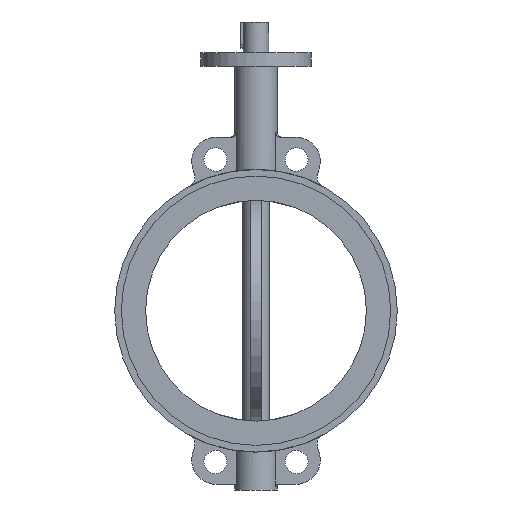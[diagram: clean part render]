
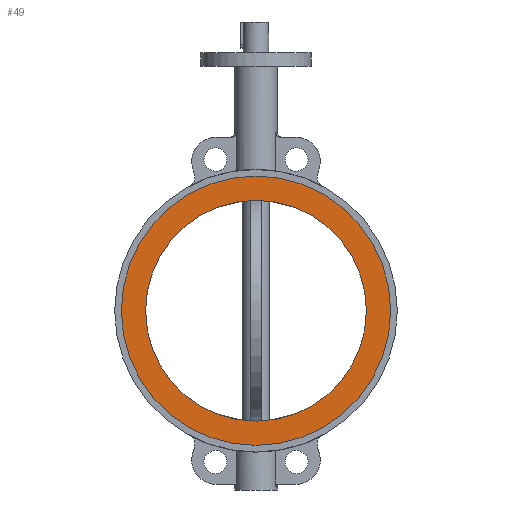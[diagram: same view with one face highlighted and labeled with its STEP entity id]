
A CAD part, left-side view. The second image highlights one B-rep face of the part: STEP entity #49.
In plain terms, the highlighted planar face has unit normal (-1, 0, 0).
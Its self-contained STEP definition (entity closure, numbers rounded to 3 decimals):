
#49=ADVANCED_FACE('',(#6062,#6064),#6066,.F.);
#6062=FACE_BOUND('',#6063,.T.);
#6063=EDGE_LOOP('',(#11216));
#6064=FACE_BOUND('',#6065,.T.);
#6065=EDGE_LOOP('',(#11217));
#6066=PLANE('',#6067);
#6067=AXIS2_PLACEMENT_3D('',#6068,#6069,#6070);
#6068=CARTESIAN_POINT('',(-34.,0.,0.));
#6069=DIRECTION('',(1.,0.,0.));
#6070=DIRECTION('',(0.,1.,0.));
#11216=ORIENTED_EDGE('',*,*,#15411,.T.);
#11217=ORIENTED_EDGE('',*,*,#15412,.T.);
#15411=EDGE_CURVE('',#17534,#17534,#17535,.F.);
#15412=EDGE_CURVE('',#17536,#17536,#17537,.T.);
#17534=VERTEX_POINT('',#20854);
#17535=CIRCLE('',#20855,152.5);
#17536=VERTEX_POINT('',#20859);
#17537=CIRCLE('',#20860,125.);
#20854=CARTESIAN_POINT('',(-34.,152.5,0.));
#20855=AXIS2_PLACEMENT_3D('',#20856,#20857,#20858);
#20856=CARTESIAN_POINT('',(-34.,0.,0.));
#20857=DIRECTION('',(1.,0.,0.));
#20858=DIRECTION('',(0.,1.,0.));
#20859=CARTESIAN_POINT('',(-34.,125.,0.));
#20860=AXIS2_PLACEMENT_3D('',#20861,#20862,#20863);
#20861=CARTESIAN_POINT('',(-34.,0.,0.));
#20862=DIRECTION('',(1.,0.,0.));
#20863=DIRECTION('',(0.,1.,0.));
